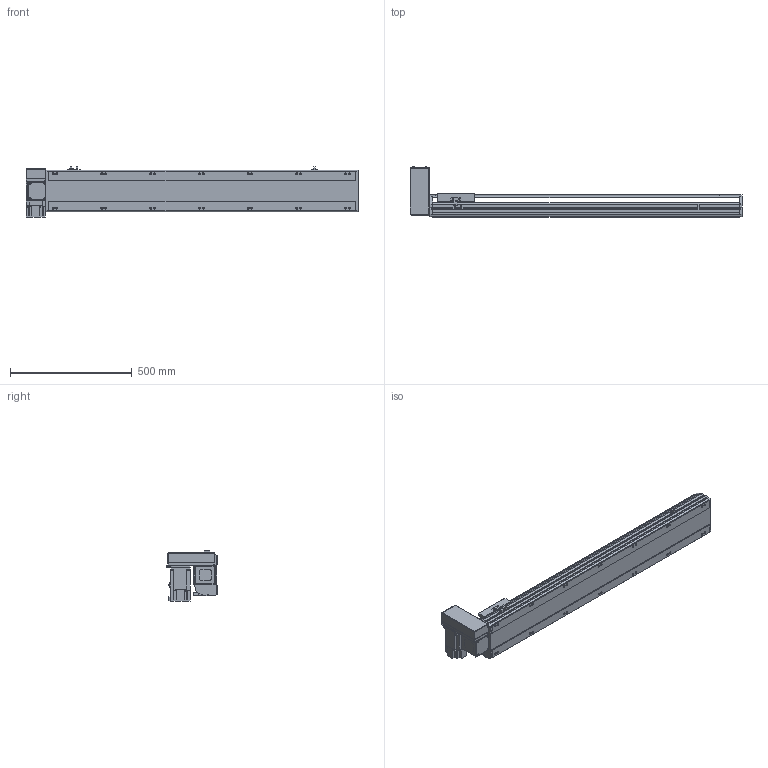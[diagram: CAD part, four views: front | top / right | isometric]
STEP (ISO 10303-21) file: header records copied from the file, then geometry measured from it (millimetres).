
FILE_DESCRIPTION( ( 'STEP AP214' ), '1' );
FILE_NAME( 'x:/temp/worker_5/temp/exporttempdir_3988_118_otdhZ/format_0/PBS170-P40-S1000-RU-T75-C1-N(0).stp', '2022-06-08T05:56:55', ( 'License CC BY-ND 4.0' ), ( 'CADENAS' ), ' ', 'PARTsolutions', ' ' );
FILE_SCHEMA( ( 'AUTOMOTIVE_DESIGN { 1 0 10303 214 1 1 1 1 }' ) );
Length unit declared in the file: millimetre
Products named in the file (7): PBS170-P40-S1000-RU-T75-C1-N(0); _PBS170-S1000()_body; _PBS170T-RU_motors; _T75-p1; _PBS170_sliser; _PBS170_plant; _PBS170_sensor
Assembly tree (8 placements, depth 2):
  PBS170-P40-S1000-RU-T75-C1-N(0)
    _PBS170-S1000()_body
    _PBS170T-RU_motors
    _T75-p1
    _PBS170_sliser
    _PBS170_plant
    _PBS170_sensor  x3
Bounding box: 1363 x 206 x 205.3 mm (x, y, z)
Volume: 10992665.8 mm3; surface area: 1439294.7 mm2
Topology: 8 solids, 8 shells, 1066 faces, 2835 edges, 1848 vertices
Faces by surface type: plane 681, cylinder 331, cone 44, sphere 8, torus 2
Full cylindrical faces by diameter (mm): 3.242 x4, 4 x2, 4.4 x4, 4.5 x6, 4.917 x4, 6 x9, 6.647 x22, 7 x2, 7.5 x4, 8 x8, 8.5 x14, 10 x4, 10.5 x14, 11 x2, 30 x2, 40 x1, 70 x1
Entity records: 39098 total; most frequent: CARTESIAN_POINT 6053, DIRECTION 5230, ORIENTED_EDGE 4968, EDGE_CURVE 2484, AXIS2_PLACEMENT_3D 1807, VERTEX_POINT 1706, LINE 1616, VECTOR 1616
